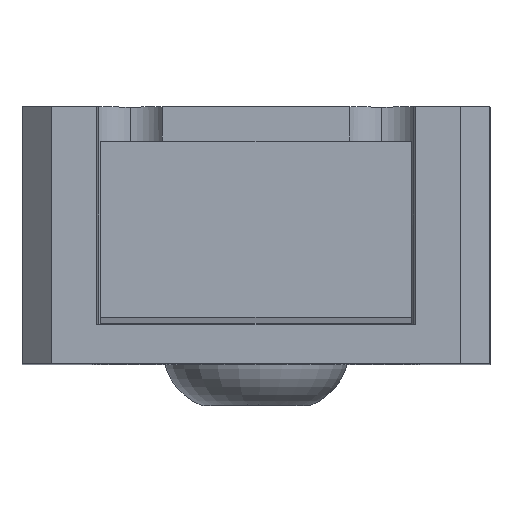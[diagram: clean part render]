
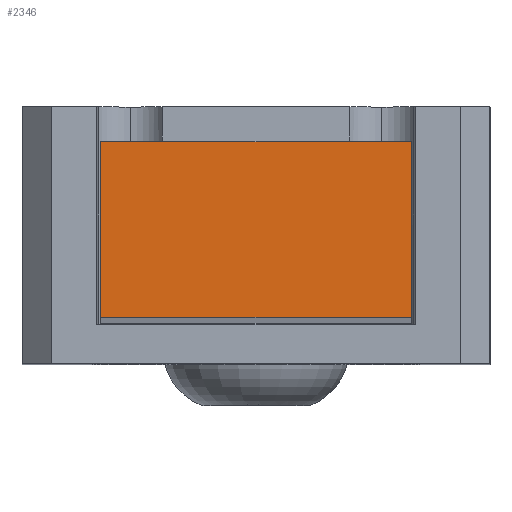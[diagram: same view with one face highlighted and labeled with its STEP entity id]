
A CAD part, top view. The second image highlights one B-rep face of the part: STEP entity #2346.
In plain terms, the highlighted planar face has unit normal (0, 0, 1).
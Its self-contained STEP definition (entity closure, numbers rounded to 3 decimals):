
#38 = LINE ( 'NONE', #1370, #1120 ) ;
#55 = DIRECTION ( 'NONE',  ( -1., 0., 0. ) ) ;
#67 = DIRECTION ( 'NONE',  ( 0., -1., 0. ) ) ;
#113 = CARTESIAN_POINT ( 'NONE',  ( -2.65, -1.5, 63.418 ) ) ;
#292 = EDGE_LOOP ( 'NONE', ( #1180, #1054, #898, #1522 ) ) ;
#361 = CARTESIAN_POINT ( 'NONE',  ( -2.65, 1.5, 63.418 ) ) ;
#377 = VERTEX_POINT ( 'NONE', #113 ) ;
#383 = EDGE_CURVE ( 'NONE', #524, #377, #1837, .T. ) ;
#424 = FACE_OUTER_BOUND ( 'NONE', #292, .T. ) ;
#524 = VERTEX_POINT ( 'NONE', #1633 ) ;
#703 = CARTESIAN_POINT ( 'NONE',  ( -2.65, -1.5, 63.418 ) ) ;
#717 = DIRECTION ( 'NONE',  ( 1., 0., 0. ) ) ;
#898 = ORIENTED_EDGE ( 'NONE', *, *, #383, .T. ) ;
#945 = DIRECTION ( 'NONE',  ( 1., 0., 0. ) ) ;
#1054 = ORIENTED_EDGE ( 'NONE', *, *, #2088, .T. ) ;
#1104 = DIRECTION ( 'NONE',  ( 0., 0., 1. ) ) ;
#1114 = CARTESIAN_POINT ( 'NONE',  ( 2.65, -1.5, 63.418 ) ) ;
#1120 = VECTOR ( 'NONE', #1704, 1000. ) ;
#1180 = ORIENTED_EDGE ( 'NONE', *, *, #2058, .T. ) ;
#1231 = AXIS2_PLACEMENT_3D ( 'NONE', #1114, #1104, #945 ) ;
#1251 = LINE ( 'NONE', #2170, #2417 ) ;
#1370 = CARTESIAN_POINT ( 'NONE',  ( 2.65, 1.5, 63.418 ) ) ;
#1522 = ORIENTED_EDGE ( 'NONE', *, *, #2434, .T. ) ;
#1552 = VERTEX_POINT ( 'NONE', #1772 ) ;
#1633 = CARTESIAN_POINT ( 'NONE',  ( -2.65, 1.5, 63.418 ) ) ;
#1704 = DIRECTION ( 'NONE',  ( 0., 1., 0. ) ) ;
#1772 = CARTESIAN_POINT ( 'NONE',  ( 2.65, -1.5, 63.418 ) ) ;
#1837 = LINE ( 'NONE', #361, #2007 ) ;
#2007 = VECTOR ( 'NONE', #67, 1000. ) ;
#2058 = EDGE_CURVE ( 'NONE', #1552, #2310, #38, .T. ) ;
#2088 = EDGE_CURVE ( 'NONE', #2310, #524, #1251, .T. ) ;
#2170 = CARTESIAN_POINT ( 'NONE',  ( 2.65, 1.5, 63.418 ) ) ;
#2233 = LINE ( 'NONE', #703, #2475 ) ;
#2261 = PLANE ( 'NONE',  #1231 ) ;
#2310 = VERTEX_POINT ( 'NONE', #2508 ) ;
#2346 = ADVANCED_FACE ( 'NONE', ( #424 ), #2261, .T. ) ;
#2417 = VECTOR ( 'NONE', #55, 1000. ) ;
#2434 = EDGE_CURVE ( 'NONE', #377, #1552, #2233, .T. ) ;
#2475 = VECTOR ( 'NONE', #717, 1000. ) ;
#2508 = CARTESIAN_POINT ( 'NONE',  ( 2.65, 1.5, 63.418 ) ) ;
